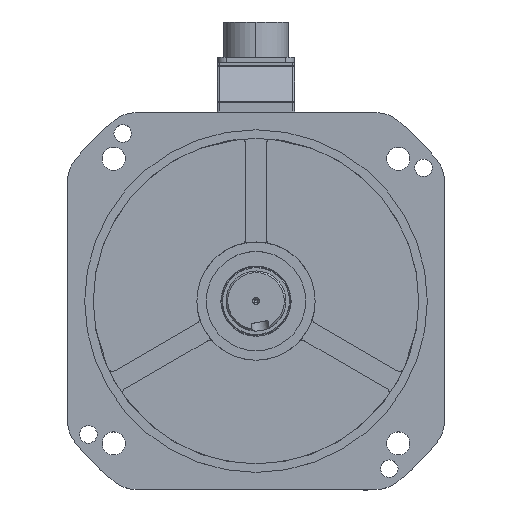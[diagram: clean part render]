
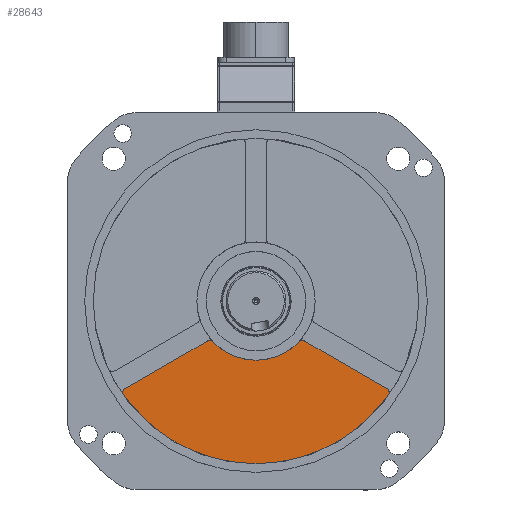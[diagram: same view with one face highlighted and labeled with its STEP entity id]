
A CAD part, top view. The second image highlights one B-rep face of the part: STEP entity #28643.
In plain terms, the highlighted planar face has unit normal (0, 0, 1).
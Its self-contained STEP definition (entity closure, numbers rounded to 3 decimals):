
#2585 = EDGE_CURVE ( 'NONE', #66861, #33244, #3668, .T. ) ;
#3511 = EDGE_CURVE ( 'NONE', #36785, #33244, #14936, .T. ) ;
#3668 = CIRCLE ( 'NONE', #7001, 95. ) ;
#3941 = PLANE ( 'NONE',  #42204 ) ;
#4980 = DIRECTION ( 'NONE',  ( 1., 0., 0. ) ) ;
#6074 = CARTESIAN_POINT ( 'NONE',  ( 0., 0., 16. ) ) ;
#7001 = AXIS2_PLACEMENT_3D ( 'NONE', #27989, #22074, #28666 ) ;
#7564 = AXIS2_PLACEMENT_3D ( 'NONE', #62516, #36369, #4980 ) ;
#9521 = DIRECTION ( 'NONE',  ( 1., 0., 0. ) ) ;
#9665 = VERTEX_POINT ( 'NONE', #18770 ) ;
#10631 = CARTESIAN_POINT ( 'NONE',  ( -24.865, 23.917, 16. ) ) ;
#12599 = AXIS2_PLACEMENT_3D ( 'NONE', #43738, #16931, #65011 ) ;
#12706 = CARTESIAN_POINT ( 'NONE',  ( 76.292, 50.976, 16. ) ) ;
#12771 = DIRECTION ( 'NONE',  ( 1., 0., 0. ) ) ;
#14639 = DIRECTION ( 'NONE',  ( -0.866, 0.5, 0. ) ) ;
#14800 = CARTESIAN_POINT ( 'NONE',  ( 77.231, 55.321, 16. ) ) ;
#14936 = CIRCLE ( 'NONE', #24942, 3. ) ;
#16111 = ORIENTED_EDGE ( 'NONE', *, *, #43095, .F. ) ;
#16488 = VECTOR ( 'NONE', #14639, 1000. ) ;
#16931 = DIRECTION ( 'NONE',  ( 0., 0., 1. ) ) ;
#17935 = ORIENTED_EDGE ( 'NONE', *, *, #3511, .T. ) ;
#18770 = CARTESIAN_POINT ( 'NONE',  ( 28.527, 23.398, 16. ) ) ;
#19902 = EDGE_CURVE ( 'NONE', #9665, #36785, #54279, .T. ) ;
#21011 = CIRCLE ( 'NONE', #52143, 3. ) ;
#21539 = DIRECTION ( 'NONE',  ( 0., 0., 1. ) ) ;
#22074 = DIRECTION ( 'NONE',  ( 0., 0., -1. ) ) ;
#22509 = VERTEX_POINT ( 'NONE', #10631 ) ;
#22679 = CARTESIAN_POINT ( 'NONE',  ( -77.792, 53.574, 16. ) ) ;
#24297 = CARTESIAN_POINT ( 'NONE',  ( 74.792, 53.574, 16. ) ) ;
#24682 = CARTESIAN_POINT ( 'NONE',  ( -76.292, 50.976, 16. ) ) ;
#24942 = AXIS2_PLACEMENT_3D ( 'NONE', #24297, #50414, #12771 ) ;
#25669 = ORIENTED_EDGE ( 'NONE', *, *, #2585, .F. ) ;
#25934 = DIRECTION ( 'NONE',  ( 0., 0., 1. ) ) ;
#27989 = CARTESIAN_POINT ( 'NONE',  ( 0., 0., 16. ) ) ;
#28643 = ADVANCED_FACE ( 'NONE', ( #40904 ), #3941, .T. ) ;
#28666 = DIRECTION ( 'NONE',  ( 1., 0., 0. ) ) ;
#29314 = CARTESIAN_POINT ( 'NONE',  ( -28.527, 23.398, 16. ) ) ;
#31026 = DIRECTION ( 'NONE',  ( 0., 0., 1. ) ) ;
#32674 = CIRCLE ( 'NONE', #12599, 3. ) ;
#33244 = VERTEX_POINT ( 'NONE', #14800 ) ;
#34193 = ORIENTED_EDGE ( 'NONE', *, *, #65582, .T. ) ;
#36369 = DIRECTION ( 'NONE',  ( 0., 0., 1. ) ) ;
#36785 = VERTEX_POINT ( 'NONE', #12706 ) ;
#38159 = ORIENTED_EDGE ( 'NONE', *, *, #43135, .T. ) ;
#38345 = VERTEX_POINT ( 'NONE', #22679 ) ;
#38915 = CARTESIAN_POINT ( 'NONE',  ( -3., 5.196, 16. ) ) ;
#40595 = EDGE_CURVE ( 'NONE', #40860, #22509, #40723, .T. ) ;
#40723 = CIRCLE ( 'NONE', #45152, 34.5 ) ;
#40751 = CIRCLE ( 'NONE', #50797, 3. ) ;
#40860 = VERTEX_POINT ( 'NONE', #52684 ) ;
#40904 = FACE_OUTER_BOUND ( 'NONE', #64192, .T. ) ;
#41114 = LINE ( 'NONE', #62386, #16488 ) ;
#42009 = DIRECTION ( 'NONE',  ( 0., 0., 1. ) ) ;
#42204 = AXIS2_PLACEMENT_3D ( 'NONE', #57279, #25934, #9521 ) ;
#43095 = EDGE_CURVE ( 'NONE', #68461, #44696, #41114, .T. ) ;
#43129 = DIRECTION ( 'NONE',  ( 1., 0., 0. ) ) ;
#43135 = EDGE_CURVE ( 'NONE', #66861, #38345, #21011, .T. ) ;
#43738 = CARTESIAN_POINT ( 'NONE',  ( -27.027, 25.996, 16. ) ) ;
#44696 = VERTEX_POINT ( 'NONE', #24682 ) ;
#45152 = AXIS2_PLACEMENT_3D ( 'NONE', #6074, #42009, #63618 ) ;
#45942 = ORIENTED_EDGE ( 'NONE', *, *, #58376, .T. ) ;
#48689 = CARTESIAN_POINT ( 'NONE',  ( -74.792, 53.574, 16. ) ) ;
#49040 = DIRECTION ( 'NONE',  ( 0.866, 0.5, 0. ) ) ;
#50414 = DIRECTION ( 'NONE',  ( 0., 0., 1. ) ) ;
#50797 = AXIS2_PLACEMENT_3D ( 'NONE', #48689, #21539, #43129 ) ;
#51014 = CIRCLE ( 'NONE', #7564, 3. ) ;
#52143 = AXIS2_PLACEMENT_3D ( 'NONE', #67965, #31026, #57485 ) ;
#52684 = CARTESIAN_POINT ( 'NONE',  ( 24.865, 23.917, 16. ) ) ;
#54279 = LINE ( 'NONE', #38915, #67709 ) ;
#57279 = CARTESIAN_POINT ( 'NONE',  ( 0., 0., 16. ) ) ;
#57485 = DIRECTION ( 'NONE',  ( 1., 0., 0. ) ) ;
#58376 = EDGE_CURVE ( 'NONE', #68461, #22509, #32674, .T. ) ;
#61197 = ORIENTED_EDGE ( 'NONE', *, *, #40595, .F. ) ;
#62386 = CARTESIAN_POINT ( 'NONE',  ( 3., 5.196, 16. ) ) ;
#62516 = CARTESIAN_POINT ( 'NONE',  ( 27.027, 25.996, 16. ) ) ;
#62952 = ORIENTED_EDGE ( 'NONE', *, *, #19902, .T. ) ;
#63618 = DIRECTION ( 'NONE',  ( 1., 0., 0. ) ) ;
#63683 = EDGE_CURVE ( 'NONE', #38345, #44696, #40751, .T. ) ;
#64192 = EDGE_LOOP ( 'NONE', ( #17935, #25669, #38159, #68150, #16111, #45942, #61197, #34193, #62952 ) ) ;
#65011 = DIRECTION ( 'NONE',  ( 1., 0., 0. ) ) ;
#65582 = EDGE_CURVE ( 'NONE', #40860, #9665, #51014, .T. ) ;
#66861 = VERTEX_POINT ( 'NONE', #68108 ) ;
#67709 = VECTOR ( 'NONE', #49040, 1000. ) ;
#67965 = CARTESIAN_POINT ( 'NONE',  ( -74.792, 53.574, 16. ) ) ;
#68108 = CARTESIAN_POINT ( 'NONE',  ( -77.231, 55.321, 16. ) ) ;
#68150 = ORIENTED_EDGE ( 'NONE', *, *, #63683, .T. ) ;
#68461 = VERTEX_POINT ( 'NONE', #29314 ) ;
